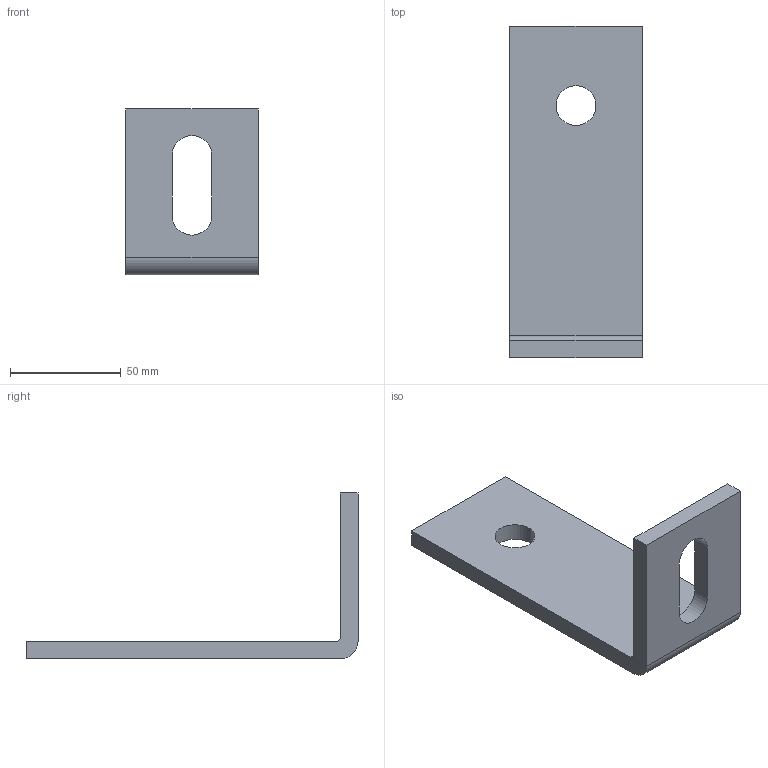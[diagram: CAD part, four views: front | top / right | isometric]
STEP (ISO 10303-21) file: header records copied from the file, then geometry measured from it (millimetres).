
FILE_DESCRIPTION (( 'STEP AP203' ), '1' );
FILE_NAME ('115AX.STEP', '2020-10-19T14:19:40', ( '' ), ( '' ), 'SwSTEP 2.0', 'SolidWorks 2013', '' );
FILE_SCHEMA (( 'CONFIG_CONTROL_DESIGN' ));
Length unit declared in the file: millimetre
Products named in the file (1): 115AX
Bounding box: 60 x 150 x 75 mm (x, y, z)
Volume: 95427.9 mm3; surface area: 29535.6 mm2
Topology: 1 solids, 1 shells, 17 faces, 45 edges, 30 vertices
Faces by surface type: plane 10, cylinder 7
Entity records: 618 total; most frequent: DIRECTION 95, CARTESIAN_POINT 93, ORIENTED_EDGE 90, EDGE_CURVE 45, AXIS2_PLACEMENT_3D 32, LINE 31, VECTOR 31, VERTEX_POINT 30
